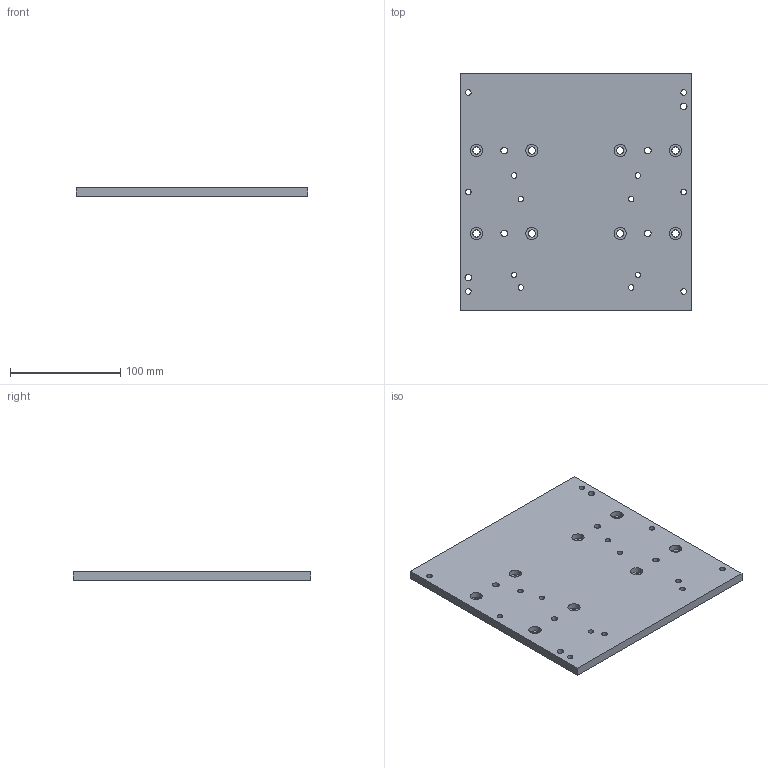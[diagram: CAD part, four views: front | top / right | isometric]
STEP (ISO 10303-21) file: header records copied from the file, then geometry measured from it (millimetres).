
FILE_DESCRIPTION (( 'STEP AP203' ), '1' );
FILE_NAME ('_-_PS10.step', '2005-09-07T12:56:59', ( ' ' ), ( ' ' ), 'SwSTEP 2.0', 'SolidWorks 2005187', '' );
FILE_SCHEMA (( 'CONFIG_CONTROL_DESIGN' ));
Length unit declared in the file: millimetre
Products named in the file (2): _-_PS10; TE1711 Schlittenplatte PS10_Standard
Assembly tree (1 placements, depth 2):
  _-_PS10
    TE1711 Schlittenplatte PS10_Standard
Bounding box: 210 x 215 x 8 mm (x, y, z)
Volume: 353021.3 mm3; surface area: 100207.5 mm2
Topology: 1 solids, 1 shells, 86 faces, 228 edges, 152 vertices
Faces by surface type: cylinder 72, plane 14
Entity records: 3064 total; most frequent: DIRECTION 552, CARTESIAN_POINT 470, ORIENTED_EDGE 456, AXIS2_PLACEMENT_3D 234, EDGE_CURVE 228, VERTEX_POINT 152, EDGE_LOOP 150, CIRCLE 144
